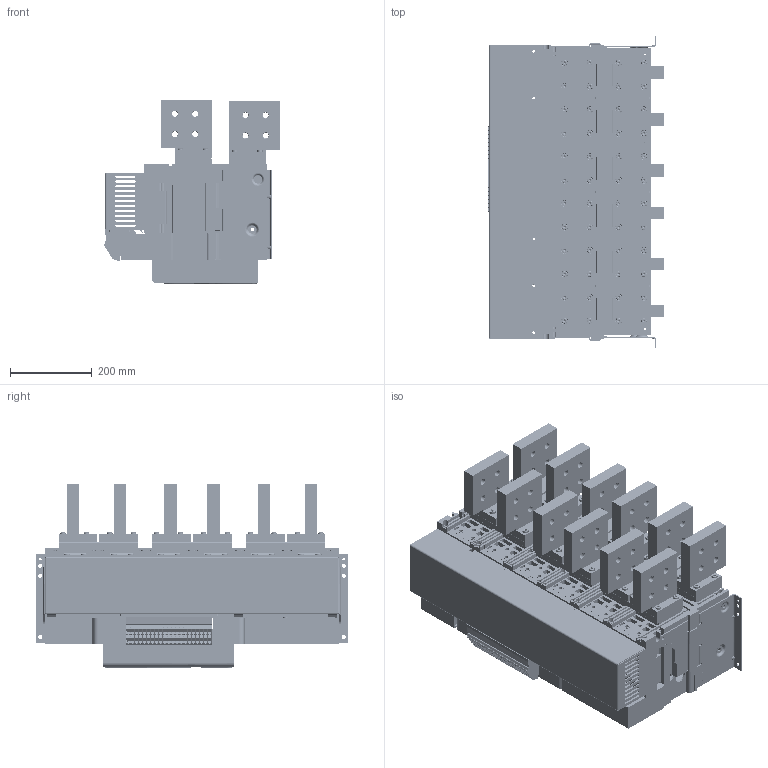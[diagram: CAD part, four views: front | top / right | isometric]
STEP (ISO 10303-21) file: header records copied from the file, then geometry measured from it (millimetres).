
FILE_DESCRIPTION (( 'STEP AP203' ), '1' );
FILE_NAME ('W6-6300 3P ??? In6300A ñòàö.STEP', '2024-07-17T11:45:20', ( '' ), ( '' ), 'SwSTEP 2.0', 'SolidWorks 2022', '' );
FILE_SCHEMA (( 'CONFIG_CONTROL_DESIGN' ));
Length unit declared in the file: millimetre
Products named in the file (203): W6-6300 3P 固定式 In6300A.sldasm-Part-43; W6-6300 3P 固定式 In6300A.sldasm-Part-60; W6-6300 3P 固定式 In6300A.sldasm-Part-71; W6-6300 3P 固定式 In6300A.sldasm-Part-156; W6-6300 3P 固定式 In6300A.sldasm-Part-185; W6-6300 3P 固定式 In6300A.sldasm-Part-14; W6-6300 3P 固定式 In6300A.sldasm-Part-183; W6-6300 3P 固定式 In6300A.sldasm-Part-137; W6-6300 3P 固定式 In6300A.sldasm-Part-84; W6-6300 3P 固定式 In6300A.sldasm-Part-100; W6-6300 3P 固定式 In6300A.sldasm-Part-70; W6-6300 3P 固定式 In6300A.sldasm-Part-52; W6-6300 3P 固定式 In6300A.sldasm-Part-139; W6-6300 3P 固定式 In6300A.sldasm-Part-63; W6-6300 3P 固定式 In6300A.sldasm-Part-18; W6-6300 3P 固定式 In6300A.sldasm-Part-62; W6-6300 3P 固定式 In6300A.sldasm-Part-173; W6-6300 3P 固定式 In6300A.sldasm-Part-120; W6-6300 3P 固定式 In6300A.sldasm-Part-135; W6-6300 3P 固定式 In6300A.sldasm-Part-138; W6-6300 3P 固定式 In6300A.sldasm-Part-5; W6-6300 3P 固定式 In6300A.sldasm-Part-16; W6-6300 3P 固定式 In6300A.sldasm-Part-68; W6-6300 3P 固定式 In6300A.sldasm-Part-146; W6-6300 3P 固定式 In6300A.sldasm-Part-157; W6-6300 3P 固定式 In6300A.sldasm-Part-31; W6-6300 3P 固定式 In6300A.sldasm-Part-2; W6-6300 3P 固定式 In6300A.sldasm-Part-109; W6-6300 3P 固定式 In6300A.sldasm-Part-133; W6-6300 3P 固定式 In6300A.sldasm-Part-170; W6-6300 3P 固定式 In6300A.sldasm-Part-12; W6-6300 3P 固定式 In6300A.sldasm-Part-101; W6-6300 3P 固定式 In6300A.sldasm-Part-160; W6-6300 3P 固定式 In6300A.sldasm-Part-121; W6-6300 3P 固定式 In6300A.sldasm-Part-35; W6-6300 3P 固定式 In6300A.sldasm-Part-102; W6-6300 3P 固定式 In6300A.sldasm-Part-147; W6-6300 3P 固定式 In6300A.sldasm-Part-26; W6-6300 3P 固定式 In6300A.sldasm-Part-98; W6-6300 3P 固定式 In6300A.sldasm-Part-148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
Assembly tree (202 placements, depth 2):
  W6-6300 3P 固定式 In6300A стац
    W6-6300 3P 固定式 In6300A.sldasm-Part-1
    W6-6300 3P 固定式 In6300A.sldasm-Part-2
    W6-6300 3P 固定式 In6300A.sldasm-Part-3
    W6-6300 3P 固定式 In6300A.sldasm-Part-4
    W6-6300 3P 固定式 In6300A.sldasm-Part-5
    W6-6300 3P 固定式 In6300A.sldasm-Part-6
    W6-6300 3P 固定式 In6300A.sldasm-Part-7
    W6-6300 3P 固定式 In6300A.sldasm-Part-8
    W6-6300 3P 固定式 In6300A.sldasm-Part-9
    W6-6300 3P 固定式 In6300A.sldasm-Part-10
    W6-6300 3P 固定式 In6300A.sldasm-Part-11
    W6-6300 3P 固定式 In6300A.sldasm-Part-12
    W6-6300 3P 固定式 In6300A.sldasm-Part-13
    W6-6300 3P 固定式 In6300A.sldasm-Part-14
    W6-6300 3P 固定式 In6300A.sldasm-Part-15
    W6-6300 3P 固定式 In6300A.sldasm-Part-16
    W6-6300 3P 固定式 In6300A.sldasm-Part-17
    W6-6300 3P 固定式 In6300A.sldasm-Part-18
    W6-6300 3P 固定式 In6300A.sldasm-Part-19
    W6-6300 3P 固定式 In6300A.sldasm-Part-20
    W6-6300 3P 固定式 In6300A.sldasm-Part-21
    W6-6300 3P 固定式 In6300A.sldasm-Part-22
    W6-6300 3P 固定式 In6300A.sldasm-Part-23
    W6-6300 3P 固定式 In6300A.sldasm-Part-24
    W6-6300 3P 固定式 In6300A.sldasm-Part-25
    W6-6300 3P 固定式 In6300A.sldasm-Part-26
    W6-6300 3P 固定式 In6300A.sldasm-Part-27
    W6-6300 3P 固定式 In6300A.sldasm-Part-28
    W6-6300 3P 固定式 In6300A.sldasm-Part-29
    W6-6300 3P 固定式 In6300A.sldasm-Part-30
    W6-6300 3P 固定式 In6300A.sldasm-Part-31
    W6-6300 3P 固定式 In6300A.sldasm-Part-32
    W6-6300 3P 固定式 In6300A.sldasm-Part-33
    W6-6300 3P 固定式 In6300A.sldasm-Part-34
    W6-6300 3P 固定式 In6300A.sldasm-Part-35
    W6-6300 3P 固定式 In6300A.sldasm-Part-36
    W6-6300 3P 固定式 In6300A.sldasm-Part-37
    W6-6300 3P 固定式 In6300A.sldasm-Part-38
    W6-6300 3P 固定式 In6300A.sldasm-Part-39
    W6-6300 3P 固定式 In6300A.sldasm-Part-40
    W6-6300 3P 固定式 In6300A.sldasm-Part-41
    W6-6300 3P 固定式 In6300A.sldasm-Part-42
    W6-6300 3P 固定式 In6300A.sldasm-Part-43
    W6-6300 3P 固定式 In6300A.sldasm-Part-44
    W6-6300 3P 固定式 In6300A.sldasm-Part-45
    W6-6300 3P 固定式 In6300A.sldasm-Part-46
    W6-6300 3P 固定式 In6300A.sldasm-Part-47
    W6-6300 3P 固定式 In6300A.sldasm-Part-48
    W6-6300 3P 固定式 In6300A.sldasm-Part-49
    W6-6300 3P 固定式 In6300A.sldasm-Part-50
    W6-6300 3P 固定式 In6300A.sldasm-Part-51
    W6-6300 3P 固定式 In6300A.sldasm-Part-52
    W6-6300 3P 固定式 In6300A.sldasm-Part-53
    W6-6300 3P 固定式 In6300A.sldasm-Part-54
    W6-6300 3P 固定式 In6300A.sldasm-Part-55
    W6-6300 3P 固定式 In6300A.sldasm-Part-56
    W6-6300 3P 固定式 In6300A.sldasm-Part-57
    W6-6300 3P 固定式 In6300A.sldasm-Part-58
    W6-6300 3P 固定式 In6300A.sldasm-Part-59
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Bounding box: 431.77 x 766.65 x 453.5 mm (x, y, z)
Volume: 32032116.3 mm3; surface area: 6433686.7 mm2
Topology: 202 solids, 223 shells, 22288 faces, 61010 edges, 39547 vertices
Faces by surface type: plane 14362, cylinder 5846, cone 1359, torus 456, bspline 259, sphere 6
Entity records: 763565 total; most frequent: CARTESIAN_POINT 166639, ORIENTED_EDGE 121564, DIRECTION 118063, EDGE_CURVE 60782, LINE 45177, VECTOR 45177, VERTEX_POINT 39547, AXIS2_PLACEMENT_3D 36443
